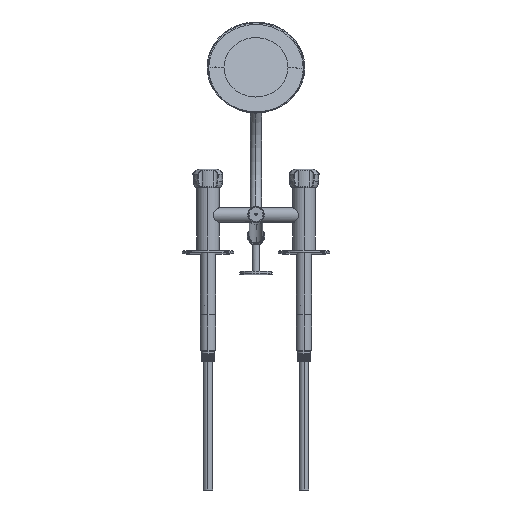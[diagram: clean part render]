
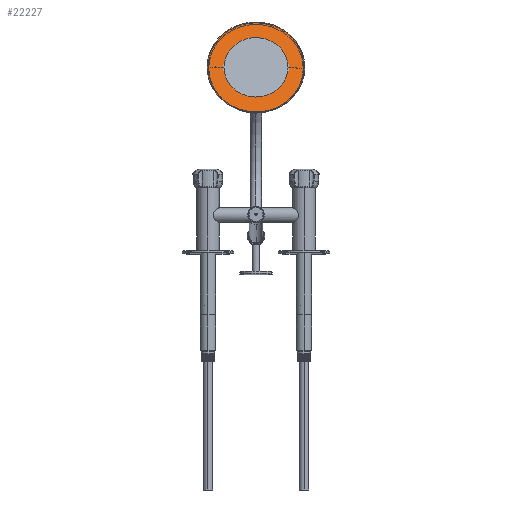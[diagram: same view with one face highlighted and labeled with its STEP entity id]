
A CAD part, front view. The second image highlights one B-rep face of the part: STEP entity #22227.
In plain terms, the highlighted planar face has unit normal (0, -0.927, 0.375).
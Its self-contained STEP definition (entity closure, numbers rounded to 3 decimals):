
#21993=CARTESIAN_POINT('',(0.,1136.709,
385.806));
#21994=DIRECTION('',(0.,0.927,-0.375));
#21995=DIRECTION('',(1.,-0.003,-0.009));
#21996=AXIS2_PLACEMENT_3D('',#21993,#21994,#21995);
#21998=CARTESIAN_POINT('',(0.,1136.709,
385.806));
#21999=DIRECTION('',(0.,0.927,-0.375));
#22000=DIRECTION('',(-1.,0.003,0.009));
#22001=AXIS2_PLACEMENT_3D('',#21998,#21999,#22000);
#22159=CARTESIAN_POINT('',(-76.365,1136.975,
386.465));
#22161=VERTEX_POINT('',#22159);
#22162=CARTESIAN_POINT('',(76.365,1136.443,385.147));
#22163=VERTEX_POINT('',#22162);
#22218=CARTESIAN_POINT('',(0.,1136.709,
385.806));
#22219=DIRECTION('',(0.,-0.927,0.375));
#22220=DIRECTION('',(-0.009,-0.375,-0.927));
#22221=AXIS2_PLACEMENT_3D('',#22218,#22219,#22220);
#22222=PLANE('',#22221);
#22223=ORIENTED_EDGE('',*,*,#22195,.T.);
#22224=ORIENTED_EDGE('',*,*,#22210,.T.);
#22225=EDGE_LOOP('',(#22223,#22224));
#22226=FACE_OUTER_BOUND('',#22225,.F.);
#22227=ADVANCED_FACE('',(#22226),#22222,.T.);
#21997=CIRCLE('',#21996,76.368);
#22002=CIRCLE('',#22001,76.368);
#22195=EDGE_CURVE('',#22163,#22161,#21997,.T.);
#22210=EDGE_CURVE('',#22161,#22163,#22002,.T.);
